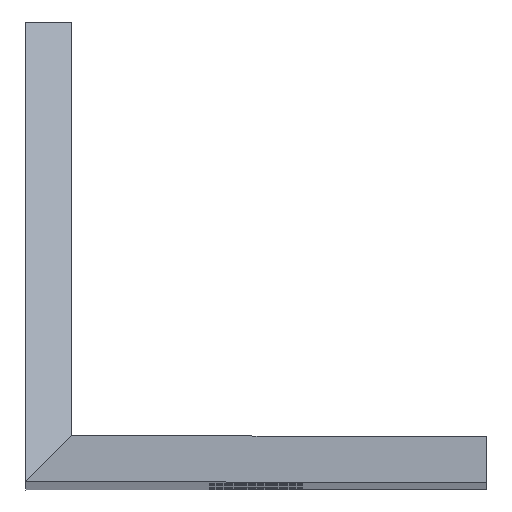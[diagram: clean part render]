
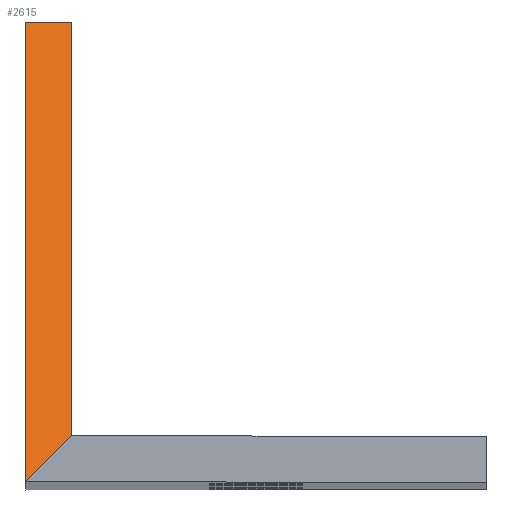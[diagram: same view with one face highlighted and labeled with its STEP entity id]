
A CAD part, top view. The second image highlights one B-rep face of the part: STEP entity #2615.
In plain terms, the highlighted planar face has unit normal (0, 0.707, 0.707).
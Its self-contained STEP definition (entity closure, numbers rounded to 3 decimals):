
#72 = EDGE_CURVE ( 'NONE', #1542, #1518, #2406, .T. ) ;
#76 = EDGE_CURVE ( 'NONE', #1556, #1481, #2409, .T. ) ;
#78 = EDGE_CURVE ( 'NONE', #1556, #1542, #2380, .T. ) ;
#121 = EDGE_CURVE ( 'NONE', #1481, #1518, #2480, .T. ) ;
#283 = DIRECTION ( 'NONE',  ( 0.577, 0.577, -0.577 ) ) ;
#285 = CARTESIAN_POINT ( 'NONE',  ( 0.667, 0.667, 207.133 ) ) ;
#548 = CARTESIAN_POINT ( 'NONE',  ( 0., 0., 207.8 ) ) ;
#564 = CARTESIAN_POINT ( 'NONE',  ( 2., 20., 187.8 ) ) ;
#587 = CARTESIAN_POINT ( 'NONE',  ( 0., 20., 187.8 ) ) ;
#607 = CARTESIAN_POINT ( 'NONE',  ( 2., 2., 205.8 ) ) ;
#893 = CARTESIAN_POINT ( 'NONE',  ( 0., 20., 187.8 ) ) ;
#907 = DIRECTION ( 'NONE',  ( 0., -0.707, 0.707 ) ) ;
#909 = CARTESIAN_POINT ( 'NONE',  ( 0., 0., 207.8 ) ) ;
#911 = DIRECTION ( 'NONE',  ( 0., -0.707, 0.707 ) ) ;
#915 = CARTESIAN_POINT ( 'NONE',  ( 2., 0., 207.8 ) ) ;
#921 = DIRECTION ( 'NONE',  ( 1., 0., 0. ) ) ;
#1193 = ORIENTED_EDGE ( 'NONE', *, *, #76, .T. ) ;
#1198 = ORIENTED_EDGE ( 'NONE', *, *, #78, .F. ) ;
#1204 = ORIENTED_EDGE ( 'NONE', *, *, #72, .F. ) ;
#1246 = ORIENTED_EDGE ( 'NONE', *, *, #121, .T. ) ;
#1313 = EDGE_LOOP ( 'NONE', ( #1193, #1246, #1204, #1198 ) ) ;
#1481 = VERTEX_POINT ( 'NONE', #548 ) ;
#1518 = VERTEX_POINT ( 'NONE', #607 ) ;
#1542 = VERTEX_POINT ( 'NONE', #564 ) ;
#1556 = VERTEX_POINT ( 'NONE', #587 ) ;
#1656 = DIRECTION ( 'NONE',  ( 0., 0.707, -0.707 ) ) ;
#1671 = PLANE ( 'NONE',  #2832 ) ;
#1672 = DIRECTION ( 'NONE',  ( 0., -0.707, -0.707 ) ) ;
#1683 = CARTESIAN_POINT ( 'NONE',  ( 2., 0., 207.8 ) ) ;
#2063 = FACE_OUTER_BOUND ( 'NONE', #1313, .T. ) ;
#2380 = LINE ( 'NONE', #893, #2400 ) ;
#2395 = VECTOR ( 'NONE', #911, 1000. ) ;
#2400 = VECTOR ( 'NONE', #921, 1000. ) ;
#2405 = VECTOR ( 'NONE', #907, 1000. ) ;
#2406 = LINE ( 'NONE', #915, #2405 ) ;
#2409 = LINE ( 'NONE', #909, #2395 ) ;
#2480 = LINE ( 'NONE', #285, #2529 ) ;
#2529 = VECTOR ( 'NONE', #283, 1000. ) ;
#2615 = ADVANCED_FACE ( 'NONE', ( #2063 ), #1671, .F. ) ;
#2832 = AXIS2_PLACEMENT_3D ( 'NONE', #1683, #1672, #1656 ) ;
